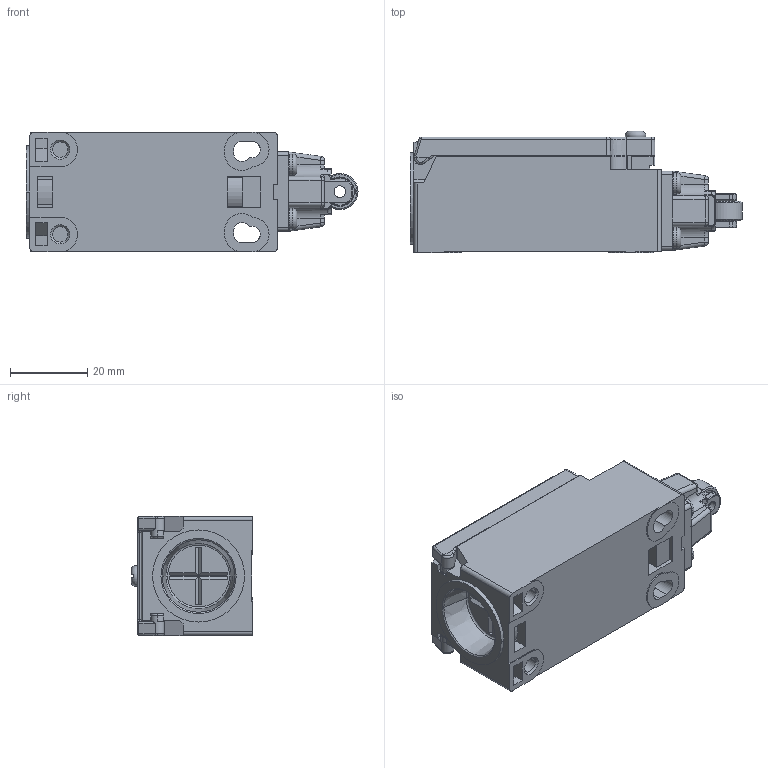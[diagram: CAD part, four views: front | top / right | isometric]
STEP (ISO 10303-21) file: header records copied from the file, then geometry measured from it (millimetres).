
FILE_DESCRIPTION(('FreeCAD Model'),'2;1');
FILE_NAME('Open CASCADE Shape Model','2026-09-09T09:55:19',(''),(''), 'Open CASCADE STEP processor 7.8','FreeCAD','Unknown');
FILE_SCHEMA(('AUTOMOTIVE_DESIGN { 1 0 10303 214 1 1 1 1 }'));
Length unit declared in the file: millimetre
Products named in the file (18): FS9612; 1; 2; 3; 4; 5; 6; 7; 8; 9; 10; 11; 12; 13; 14; 15; 16; 17
Assembly tree (17 placements, depth 2):
  FS9612
    1
    2
    3
    4
    5
    6
    7
    8
    9
    10
    11
    12
    13
    14
    15
    16
    17
Bounding box: 86.2 x 31.6 x 31.02 mm (x, y, z)
Volume: 27650.6 mm3; surface area: 28347.3 mm2
Topology: 17 solids, 17 shells, 1278 faces, 3381 edges, 2171 vertices
Faces by surface type: plane 697, cylinder 385, torus 78, cone 63, bspline 37, sphere 18
Full cylindrical faces by diameter (mm): 2.8 x7, 3 x16, 5.5 x5
Entity records: 64559 total; most frequent: CARTESIAN_POINT 32359, ORIENTED_EDGE 6762, DIRECTION 6521, EDGE_CURVE 3381, AXIS2_PLACEMENT_3D 2232, VERTEX_POINT 2171, LINE 2057, VECTOR 2057
